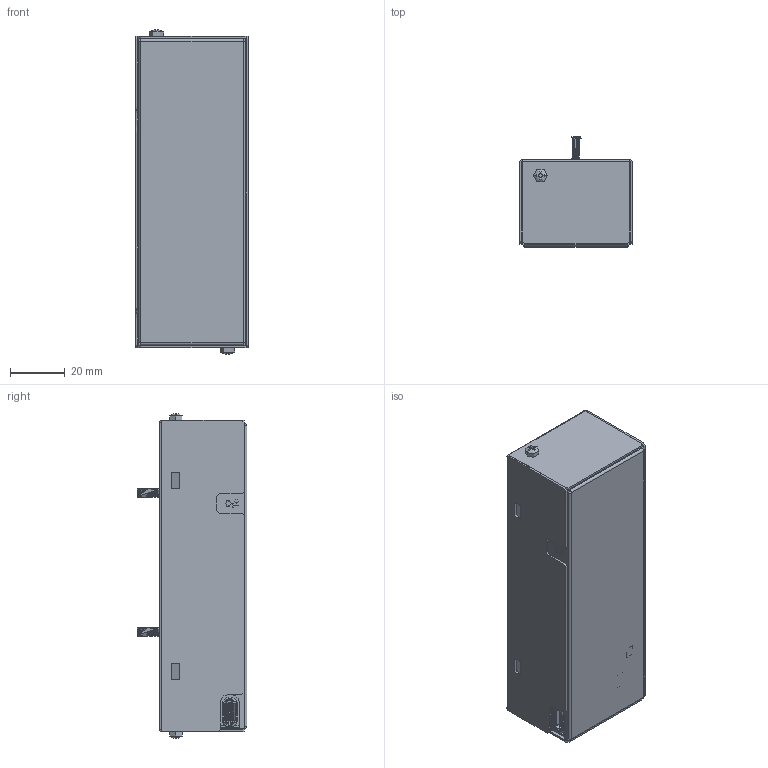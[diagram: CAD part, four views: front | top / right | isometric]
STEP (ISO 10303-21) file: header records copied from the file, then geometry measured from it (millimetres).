
FILE_DESCRIPTION (( 'STEP AP203' ), '1' );
FILE_NAME ('Box Assy-FTY50-1200T-36-UNV.STEP', '2023-08-11T06:02:00', ( '' ), ( '' ), 'SwSTEP 2.0', 'SolidWorks 2017', '' );
FILE_SCHEMA (( 'CONFIG_CONTROL_DESIGN' ));
Products named in the file (9): M3x6; Box Assy-FTY50-1200T-36-UNV; 511-0000xxxx  Cover-FTY50-1200T-36-UNV; 690-00023 FTX50 Step File; 511-0000xxxx  Base-FTX50-1200T-36-UNV; 514-70000170   389-00002（A3）; M2x5; Flush Stud_PME 832 9.3mm_PEM FH-832-8 X--C
Assembly tree (10 placements, depth 3):
  Box Assy-FTY50-1200T-36-UNV
    511-0000xxxx  Base-FTX50-1200T-36-UNV
    M2x5
    514-70000170   389-00002（A3）
    511-0000xxxx  Cover-FTY50-1200T-36-UNV
      511-0000xxxx  Cover-FTY50-1200T-36-UNV
      Flush Stud_PME 832 9.3mm_PEM FH-832-8 X--C  x2
    M3x6  x2
    690-00023 FTX50 Step File
Bounding box: 41 x 40.19 x 118.62 mm (x, y, z)
Topology: 8 solids, 2758 shells, 10115 faces, 31089 edges, 24026 vertices
Faces by surface type: plane 6837, cylinder 2472, bspline 620, cone 141, torus 40, sphere 5
Entity records: 370513 total; most frequent: CARTESIAN_POINT 102466, DIRECTION 52123, ORIENTED_EDGE 49833, EDGE_CURVE 30642, VERTEX_POINT 23797, VECTOR 22781, LINE 22781, AXIS2_PLACEMENT_3D 14671
